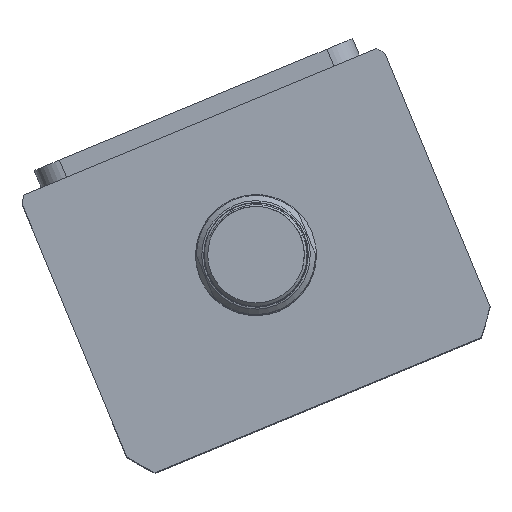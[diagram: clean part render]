
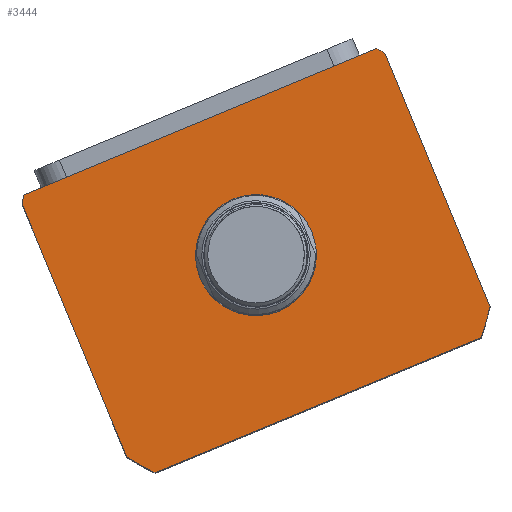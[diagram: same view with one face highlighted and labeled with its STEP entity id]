
A CAD part, top view. The second image highlights one B-rep face of the part: STEP entity #3444.
In plain terms, the highlighted planar face has unit normal (0, 0, 1) as drawn and (0, 0, -1) by its records, which use the part's own axes.
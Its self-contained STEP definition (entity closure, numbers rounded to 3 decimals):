
#257 = FACE_OUTER_BOUND ( 'NONE', #9129, .T. ) ;
#573 = LINE ( 'NONE', #20121, #16501 ) ;
#697 = CIRCLE ( 'NONE', #12418, 69.5 ) ;
#832 = CARTESIAN_POINT ( 'NONE',  ( 55.374, -17.497, 0. ) ) ;
#907 = CARTESIAN_POINT ( 'NONE',  ( 0., -59.497, 0. ) ) ;
#930 = FACE_BOUND ( 'NONE', #12271, .T. ) ;
#999 = VECTOR ( 'NONE', #19867, 1000. ) ;
#1997 = ORIENTED_EDGE ( 'NONE', *, *, #23799, .F. ) ;
#2899 = VERTEX_POINT ( 'NONE', #14528 ) ;
#3084 = DIRECTION ( 'NONE',  ( 1., 0., 0. ) ) ;
#3444 = ADVANCED_FACE ( 'NONE', ( #930, #257 ), #25334, .F. ) ;
#3990 = LINE ( 'NONE', #14596, #20556 ) ;
#4450 = VERTEX_POINT ( 'NONE', #23908 ) ;
#4513 = DIRECTION ( 'NONE',  ( 0., 0., 1. ) ) ;
#4944 = VERTEX_POINT ( 'NONE', #10037 ) ;
#5184 = CARTESIAN_POINT ( 'NONE',  ( -57., -19.732, 0. ) ) ;
#6136 = DIRECTION ( 'NONE',  ( 0., -1., 0. ) ) ;
#6288 = EDGE_CURVE ( 'NONE', #18091, #4450, #23778, .T. ) ;
#6943 = VERTEX_POINT ( 'NONE', #21464 ) ;
#7048 = LINE ( 'NONE', #19073, #23615 ) ;
#7114 = AXIS2_PLACEMENT_3D ( 'NONE', #25379, #12457, #27525 ) ;
#8100 = CARTESIAN_POINT ( 'NONE',  ( 0., 0., 0. ) ) ;
#8641 = ORIENTED_EDGE ( 'NONE', *, *, #27029, .F. ) ;
#9053 = VERTEX_POINT ( 'NONE', #22109 ) ;
#9055 = DIRECTION ( 'NONE',  ( 0., 0., 1. ) ) ;
#9129 = EDGE_LOOP ( 'NONE', ( #13410, #17613, #23885, #27252, #1997, #12621, #8641, #12652 ) ) ;
#10037 = CARTESIAN_POINT ( 'NONE',  ( 57., -19.732, 0. ) ) ;
#10097 = DIRECTION ( 'NONE',  ( 0., 0., 1. ) ) ;
#10571 = VERTEX_POINT ( 'NONE', #832 ) ;
#10989 = EDGE_CURVE ( 'NONE', #4944, #10571, #697, .T. ) ;
#11215 = EDGE_CURVE ( 'NONE', #4450, #18091, #15247, .T. ) ;
#12271 = EDGE_LOOP ( 'NONE', ( #14221, #14036 ) ) ;
#12399 = DIRECTION ( 'NONE',  ( 0., 0., 1. ) ) ;
#12418 = AXIS2_PLACEMENT_3D ( 'NONE', #21975, #9055, #24127 ) ;
#12457 = DIRECTION ( 'NONE',  ( 0., 0., 1. ) ) ;
#12621 = ORIENTED_EDGE ( 'NONE', *, *, #15196, .F. ) ;
#12652 = ORIENTED_EDGE ( 'NONE', *, *, #19427, .F. ) ;
#13410 = ORIENTED_EDGE ( 'NONE', *, *, #10989, .F. ) ;
#14036 = ORIENTED_EDGE ( 'NONE', *, *, #11215, .T. ) ;
#14080 = CIRCLE ( 'NONE', #18825, 69.5 ) ;
#14221 = ORIENTED_EDGE ( 'NONE', *, *, #6288, .T. ) ;
#14528 = CARTESIAN_POINT ( 'NONE',  ( -57., -99.262, 0. ) ) ;
#14596 = CARTESIAN_POINT ( 'NONE',  ( -57., -17.497, 0. ) ) ;
#15196 = EDGE_CURVE ( 'NONE', #23555, #2899, #7048, .T. ) ;
#15247 = CIRCLE ( 'NONE', #26831, 17.5 ) ;
#15885 = AXIS2_PLACEMENT_3D ( 'NONE', #17474, #4513, #19642 ) ;
#16020 = DIRECTION ( 'NONE',  ( 0., 0., 1. ) ) ;
#16377 = EDGE_CURVE ( 'NONE', #9053, #4944, #23310, .T. ) ;
#16501 = VECTOR ( 'NONE', #22279, 1000. ) ;
#17474 = CARTESIAN_POINT ( 'NONE',  ( 0., -59.497, 0. ) ) ;
#17613 = ORIENTED_EDGE ( 'NONE', *, *, #16377, .F. ) ;
#18091 = VERTEX_POINT ( 'NONE', #22573 ) ;
#18825 = AXIS2_PLACEMENT_3D ( 'NONE', #25318, #12399, #27467 ) ;
#18860 = DIRECTION ( 'NONE',  ( 0., 0., 1. ) ) ;
#19038 = VERTEX_POINT ( 'NONE', #25714 ) ;
#19073 = CARTESIAN_POINT ( 'NONE',  ( -57., -17.497, 0. ) ) ;
#19427 = EDGE_CURVE ( 'NONE', #10571, #6943, #3990, .T. ) ;
#19470 = CIRCLE ( 'NONE', #27798, 69.5 ) ;
#19642 = DIRECTION ( 'NONE',  ( 1., 0., 0. ) ) ;
#19867 = DIRECTION ( 'NONE',  ( 0., 1., 0. ) ) ;
#19962 = EDGE_CURVE ( 'NONE', #19038, #27027, #573, .T. ) ;
#20063 = AXIS2_PLACEMENT_3D ( 'NONE', #8100, #18860, #27483 ) ;
#20121 = CARTESIAN_POINT ( 'NONE',  ( -57., -106.497, 0. ) ) ;
#20556 = VECTOR ( 'NONE', #23268, 1000. ) ;
#21464 = CARTESIAN_POINT ( 'NONE',  ( -55.374, -17.497, 0. ) ) ;
#21975 = CARTESIAN_POINT ( 'NONE',  ( 0., -59.497, 0. ) ) ;
#22019 = CARTESIAN_POINT ( 'NONE',  ( 57., -17.497, 0. ) ) ;
#22109 = CARTESIAN_POINT ( 'NONE',  ( 57., -99.262, 0. ) ) ;
#22279 = DIRECTION ( 'NONE',  ( 1., 0., 0. ) ) ;
#22573 = CARTESIAN_POINT ( 'NONE',  ( 17.5, -59.497, 0. ) ) ;
#22911 = EDGE_CURVE ( 'NONE', #27027, #9053, #14080, .T. ) ;
#23007 = CARTESIAN_POINT ( 'NONE',  ( 0., -59.497, 0. ) ) ;
#23268 = DIRECTION ( 'NONE',  ( -1., 0., 0. ) ) ;
#23310 = LINE ( 'NONE', #22019, #999 ) ;
#23481 = CIRCLE ( 'NONE', #15885, 69.5 ) ;
#23555 = VERTEX_POINT ( 'NONE', #5184 ) ;
#23615 = VECTOR ( 'NONE', #6136, 1000. ) ;
#23778 = CIRCLE ( 'NONE', #7114, 17.5 ) ;
#23799 = EDGE_CURVE ( 'NONE', #2899, #19038, #19470, .T. ) ;
#23873 = CARTESIAN_POINT ( 'NONE',  ( 51.198, -106.497, 0. ) ) ;
#23885 = ORIENTED_EDGE ( 'NONE', *, *, #22911, .F. ) ;
#23908 = CARTESIAN_POINT ( 'NONE',  ( -17.5, -59.497, 0. ) ) ;
#24127 = DIRECTION ( 'NONE',  ( 1., 0., 0. ) ) ;
#25147 = DIRECTION ( 'NONE',  ( 1., 0., 0. ) ) ;
#25318 = CARTESIAN_POINT ( 'NONE',  ( 0., -59.497, 0. ) ) ;
#25334 = PLANE ( 'NONE',  #20063 ) ;
#25379 = CARTESIAN_POINT ( 'NONE',  ( 0., -59.497, 0. ) ) ;
#25714 = CARTESIAN_POINT ( 'NONE',  ( -51.198, -106.497, 0. ) ) ;
#26831 = AXIS2_PLACEMENT_3D ( 'NONE', #907, #16020, #3084 ) ;
#27027 = VERTEX_POINT ( 'NONE', #23873 ) ;
#27029 = EDGE_CURVE ( 'NONE', #6943, #23555, #23481, .T. ) ;
#27252 = ORIENTED_EDGE ( 'NONE', *, *, #19962, .F. ) ;
#27467 = DIRECTION ( 'NONE',  ( 1., 0., 0. ) ) ;
#27483 = DIRECTION ( 'NONE',  ( 1., 0., 0. ) ) ;
#27525 = DIRECTION ( 'NONE',  ( 1., 0., 0. ) ) ;
#27798 = AXIS2_PLACEMENT_3D ( 'NONE', #23007, #10097, #25147 ) ;
